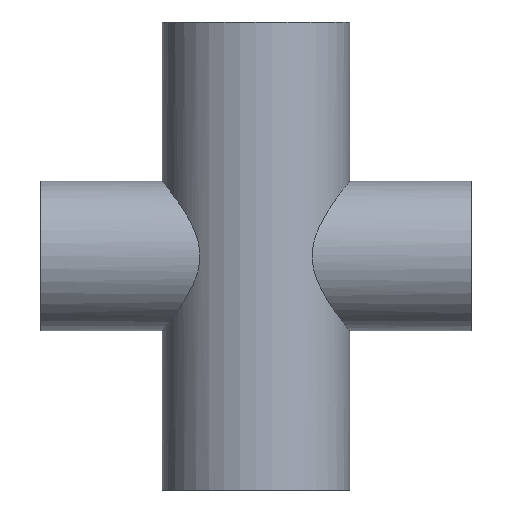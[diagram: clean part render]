
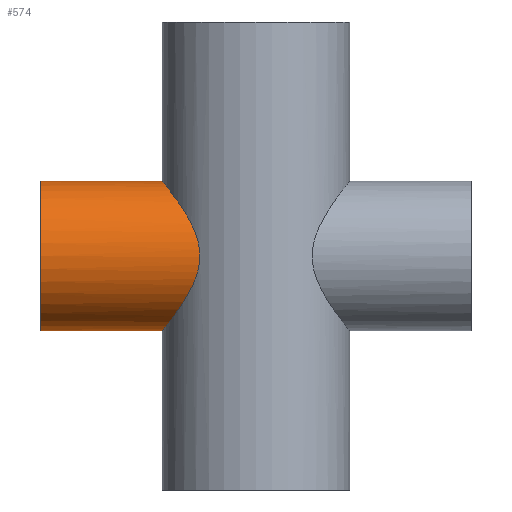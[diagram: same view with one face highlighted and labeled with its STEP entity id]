
A CAD part, front view. The second image highlights one B-rep face of the part: STEP entity #574.
In plain terms, the highlighted cylindrical face has radius 25.4 mm (diameter 50.8 mm), a partial arc.
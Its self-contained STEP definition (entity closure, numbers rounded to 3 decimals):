
#50 = CARTESIAN_POINT ( 'NONE',  ( -31.169, -6.062, 24.67 ) ) ;
#85 = DIRECTION ( 'NONE',  ( 1., 0., 0. ) ) ;
#127 = VECTOR ( 'NONE', #644, 1000. ) ;
#161 = VERTEX_POINT ( 'NONE', #503 ) ;
#167 = VECTOR ( 'NONE', #645, 1000. ) ;
#176 = EDGE_CURVE ( 'NONE', #161, #1014, #491, .T. ) ;
#199 = CARTESIAN_POINT ( 'NONE',  ( -20.237, -24.468, 6.868 ) ) ;
#210 = EDGE_CURVE ( 'NONE', #1014, #843, #889, .T. ) ;
#236 = CARTESIAN_POINT ( 'NONE',  ( -31.023, -6.972, -24.487 ) ) ;
#242 = EDGE_LOOP ( 'NONE', ( #766, #698, #437, #623 ) ) ;
#259 = CARTESIAN_POINT ( 'NONE',  ( -30.898, -7.318, 24.327 ) ) ;
#262 = CARTESIAN_POINT ( 'NONE',  ( -21.159, -23.677, 9.232 ) ) ;
#269 = CARTESIAN_POINT ( 'NONE',  ( -31.446, -4.403, -25.019 ) ) ;
#275 = CARTESIAN_POINT ( 'NONE',  ( -31.382, -4.837, -24.939 ) ) ;
#278 = FACE_OUTER_BOUND ( 'NONE', #242, .T. ) ;
#281 = EDGE_CURVE ( 'NONE', #161, #817, #359, .T. ) ;
#285 = CARTESIAN_POINT ( 'NONE',  ( -31.75, 0., -25.4 ) ) ;
#289 = CARTESIAN_POINT ( 'NONE',  ( -19.355, -25.169, 3.528 ) ) ;
#296 = CARTESIAN_POINT ( 'NONE',  ( -29.837, -10.884, 22.965 ) ) ;
#320 = CARTESIAN_POINT ( 'NONE',  ( -20.833, -23.963, 8.465 ) ) ;
#323 = CARTESIAN_POINT ( 'NONE',  ( -22.944, -21.977, -12.831 ) ) ;
#327 = CARTESIAN_POINT ( 'NONE',  ( -19.174, -25.307, 2.216 ) ) ;
#346 = CARTESIAN_POINT ( 'NONE',  ( -19.964, -24.69, -6.024 ) ) ;
#350 = CARTESIAN_POINT ( 'NONE',  ( -22.191, -22.726, 11.457 ) ) ;
#359 = CIRCLE ( 'NONE', #837, 25.4 ) ;
#365 = CARTESIAN_POINT ( 'NONE',  ( -29.955, -10.533, -23.117 ) ) ;
#370 = CARTESIAN_POINT ( 'NONE',  ( -25.879, -18.397, -17.517 ) ) ;
#378 = CARTESIAN_POINT ( 'NONE',  ( -24.11, -20.666, -14.788 ) ) ;
#399 = CARTESIAN_POINT ( 'NONE',  ( -25.093, -19.455, -16.335 ) ) ;
#402 = CARTESIAN_POINT ( 'NONE',  ( -29.554, -11.63, 22.596 ) ) ;
#405 = CARTESIAN_POINT ( 'NONE',  ( -20.226, -24.477, -6.836 ) ) ;
#408 = CARTESIAN_POINT ( 'NONE',  ( -19.11, -25.355, -1.742 ) ) ;
#426 = CARTESIAN_POINT ( 'NONE',  ( -73.025, 0., -25.4 ) ) ;
#437 = ORIENTED_EDGE ( 'NONE', *, *, #643, .T. ) ;
#439 = CARTESIAN_POINT ( 'NONE',  ( -25.683, -18.67, -17.226 ) ) ;
#448 = CARTESIAN_POINT ( 'NONE',  ( -31.556, -3.531, -25.157 ) ) ;
#452 = CARTESIAN_POINT ( 'NONE',  ( -19.066, -25.388, 0.89 ) ) ;
#457 = CARTESIAN_POINT ( 'NONE',  ( -19.535, -25.029, -4.347 ) ) ;
#477 = CARTESIAN_POINT ( 'NONE',  ( -73.025, 0., 0. ) ) ;
#480 = CARTESIAN_POINT ( 'NONE',  ( -29.817, -10.916, -22.938 ) ) ;
#486 = CARTESIAN_POINT ( 'NONE',  ( -30.994, -6.9, 24.449 ) ) ;
#490 = LINE ( 'NONE', #658, #127 ) ;
#491 = LINE ( 'NONE', #730, #167 ) ;
#503 = CARTESIAN_POINT ( 'NONE',  ( -73.025, 0., 25.4 ) ) ;
#517 = CARTESIAN_POINT ( 'NONE',  ( -26.846, -17.006, -18.934 ) ) ;
#528 = CARTESIAN_POINT ( 'NONE',  ( -22.95, -21.971, 12.841 ) ) ;
#534 = CARTESIAN_POINT ( 'NONE',  ( -19.531, -25.034, 4.381 ) ) ;
#539 = CARTESIAN_POINT ( 'NONE',  ( -27.588, -15.787, 19.965 ) ) ;
#559 = DIRECTION ( 'NONE',  ( 0., 0., -1. ) ) ;
#570 = CARTESIAN_POINT ( 'NONE',  ( -24.122, -20.647, 14.799 ) ) ;
#574 = ADVANCED_FACE ( 'NONE', ( #278 ), #614, .T. ) ;
#579 = CARTESIAN_POINT ( 'NONE',  ( -31.75, 0., -25.4 ) ) ;
#586 = CARTESIAN_POINT ( 'NONE',  ( -23.925, -20.874, 14.477 ) ) ;
#590 = CARTESIAN_POINT ( 'NONE',  ( -31.75, -1.781, 25.4 ) ) ;
#614 = CYLINDRICAL_SURFACE ( 'NONE', #1025, 25.4 ) ;
#623 = ORIENTED_EDGE ( 'NONE', *, *, #210, .F. ) ;
#639 = CARTESIAN_POINT ( 'NONE',  ( -73.025, 0., 0. ) ) ;
#643 = EDGE_CURVE ( 'NONE', #817, #843, #490, .T. ) ;
#644 = DIRECTION ( 'NONE',  ( 1., 0., 0. ) ) ;
#645 = DIRECTION ( 'NONE',  ( 1., 0., 0. ) ) ;
#650 = CARTESIAN_POINT ( 'NONE',  ( -19.127, -25.342, 1.772 ) ) ;
#655 = CARTESIAN_POINT ( 'NONE',  ( -19.361, -25.164, -3.485 ) ) ;
#658 = CARTESIAN_POINT ( 'NONE',  ( -73.025, 0., -25.4 ) ) ;
#683 = CARTESIAN_POINT ( 'NONE',  ( -24.517, -20.176, 15.435 ) ) ;
#694 = CARTESIAN_POINT ( 'NONE',  ( -24.716, -19.933, 15.748 ) ) ;
#698 = ORIENTED_EDGE ( 'NONE', *, *, #281, .T. ) ;
#700 = CARTESIAN_POINT ( 'NONE',  ( -25.29, -19.198, -16.635 ) ) ;
#718 = CARTESIAN_POINT ( 'NONE',  ( -31.75, 0., 25.4 ) ) ;
#723 = CARTESIAN_POINT ( 'NONE',  ( -21.14, -23.694, -9.189 ) ) ;
#725 = DIRECTION ( 'NONE',  ( 0., 0., -1. ) ) ;
#726 = CARTESIAN_POINT ( 'NONE',  ( -31.248, -5.64, 24.77 ) ) ;
#730 = CARTESIAN_POINT ( 'NONE',  ( -73.025, 0., 25.4 ) ) ;
#751 = CARTESIAN_POINT ( 'NONE',  ( -31.75, -0.891, -25.4 ) ) ;
#759 = CARTESIAN_POINT ( 'NONE',  ( -29.382, -12.037, -22.371 ) ) ;
#763 = CARTESIAN_POINT ( 'NONE',  ( -31.602, -3.093, -25.215 ) ) ;
#766 = ORIENTED_EDGE ( 'NONE', *, *, #176, .F. ) ;
#770 = CARTESIAN_POINT ( 'NONE',  ( -31.713, -1.776, -25.353 ) ) ;
#774 = CARTESIAN_POINT ( 'NONE',  ( -20.814, -23.979, -8.417 ) ) ;
#779 = CARTESIAN_POINT ( 'NONE',  ( -19.05, -25.4, 0.45 ) ) ;
#790 = DIRECTION ( 'NONE',  ( 1., 0., 0. ) ) ;
#808 = CARTESIAN_POINT ( 'NONE',  ( -31.601, -3.518, 25.215 ) ) ;
#810 = CARTESIAN_POINT ( 'NONE',  ( -19.972, -24.684, 6.05 ) ) ;
#813 = CARTESIAN_POINT ( 'NONE',  ( -30.355, -9.344, 23.634 ) ) ;
#817 = VERTEX_POINT ( 'NONE', #426 ) ;
#829 = CARTESIAN_POINT ( 'NONE',  ( -28.613, -13.78, 21.352 ) ) ;
#833 = CARTESIAN_POINT ( 'NONE',  ( -30.589, -8.55, 23.933 ) ) ;
#837 = AXIS2_PLACEMENT_3D ( 'NONE', #639, #85, #559 ) ;
#843 = VERTEX_POINT ( 'NONE', #579 ) ;
#845 = CARTESIAN_POINT ( 'NONE',  ( -19.05, -25.4, -0.868 ) ) ;
#850 = CARTESIAN_POINT ( 'NONE',  ( -26.85, -16.999, 18.939 ) ) ;
#854 = CARTESIAN_POINT ( 'NONE',  ( -19.634, -24.952, -4.771 ) ) ;
#861 = CARTESIAN_POINT ( 'NONE',  ( -29.531, -11.669, -22.565 ) ) ;
#887 = CARTESIAN_POINT ( 'NONE',  ( -24.503, -20.2, -15.419 ) ) ;
#889 = B_SPLINE_CURVE_WITH_KNOTS ( 'NONE', 3,
 ( #894, #590, #808, #726, #50, #486, #259, #833, #813, #296, #402, #982, #829, #539, #850, #998, #952, #694, #683, #570, #586, #528, #350, #262, #320, #199, #810, #534, #289, #327, #650, #452, #779, #845, #408, #937, #655, #457, #854, #346, #405, #774, #723, #921, #323, #378, #887, #399, #700, #439, #370, #517, #1012, #917, #1008, #759, #861, #480, #365, #1016, #236, #275, #269, #448, #763, #770, #751, #285 ),
 .UNSPECIFIED., .F., .F.,
 ( 4, 2, 2, 2, 2, 2, 2, 2, 2, 2, 2, 2, 2, 2, 2, 2, 2, 2, 2, 2, 2, 2, 2, 2, 2, 2, 2, 2, 2, 2, 2, 2, 2, 4 ),
 ( 0., 0.005, 0.007, 0.008, 0.011, 0.013, 0.016, 0.021, 0.024, 0.025, 0.026, 0.032, 0.034, 0.037, 0.039, 0.041, 0.042, 0.045, 0.046, 0.047, 0.05, 0.053, 0.058, 0.06, 0.062, 0.063, 0.068, 0.071, 0.072, 0.074, 0.079, 0.08, 0.081, 0.084 ),
 .UNSPECIFIED. ) ;
#894 = CARTESIAN_POINT ( 'NONE',  ( -31.75, 0., 25.4 ) ) ;
#917 = CARTESIAN_POINT ( 'NONE',  ( -28.6, -13.808, -21.334 ) ) ;
#921 = CARTESIAN_POINT ( 'NONE',  ( -22.183, -22.735, -11.443 ) ) ;
#937 = CARTESIAN_POINT ( 'NONE',  ( -19.288, -25.22, -3.048 ) ) ;
#952 = CARTESIAN_POINT ( 'NONE',  ( -25.308, -19.183, 16.667 ) ) ;
#982 = CARTESIAN_POINT ( 'NONE',  ( -28.943, -13.077, 21.791 ) ) ;
#998 = CARTESIAN_POINT ( 'NONE',  ( -25.699, -18.657, 17.254 ) ) ;
#1008 = CARTESIAN_POINT ( 'NONE',  ( -28.924, -13.118, -21.766 ) ) ;
#1012 = CARTESIAN_POINT ( 'NONE',  ( -27.584, -15.793, -19.958 ) ) ;
#1014 = VERTEX_POINT ( 'NONE', #718 ) ;
#1016 = CARTESIAN_POINT ( 'NONE',  ( -30.608, -8.596, -23.961 ) ) ;
#1025 = AXIS2_PLACEMENT_3D ( 'NONE', #477, #790, #725 ) ;
